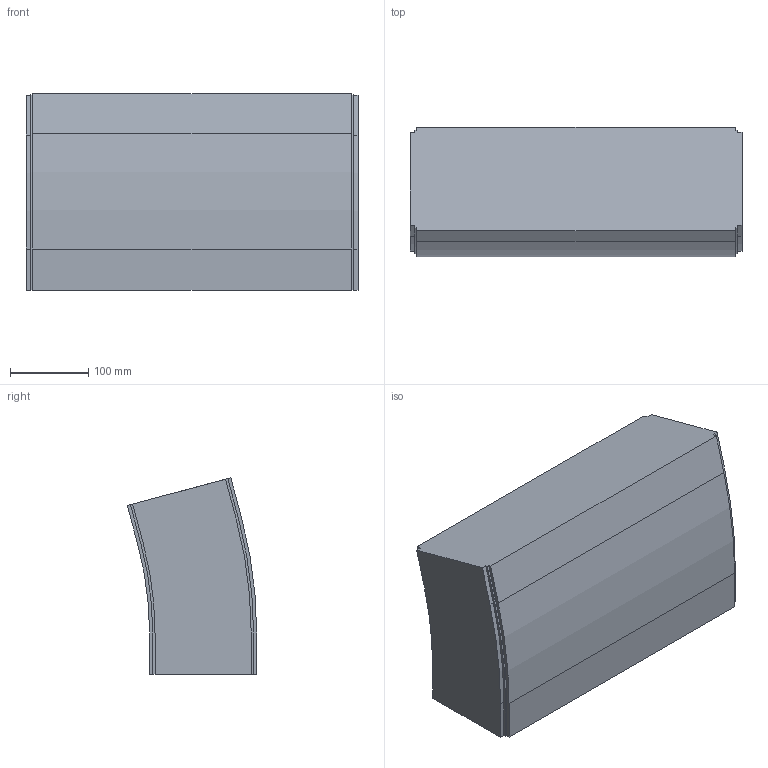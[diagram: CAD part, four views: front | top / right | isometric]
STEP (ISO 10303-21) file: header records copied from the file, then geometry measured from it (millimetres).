
FILE_DESCRIPTION (( 'STEP AP214' ), '1' );
FILE_NAME ('FS-MTC2-150-INOX verticaalbocht.420 15°.STEP', '2017-02-08T12:41:48', ( '' ), ( '' ), 'SwSTEP 2.0', 'SolidWorks 2016', '' );
FILE_SCHEMA (( 'AUTOMOTIVE_DESIGN' ));
Length unit declared in the file: millimetre
Products named in the file (1): FS-MTC2-150-INOX verticaalbocht.420 15°
Bounding box: 423 x 164.8 x 250.28 mm (x, y, z)
Volume: 13572418.1 mm3; surface area: 379041.2 mm2
Topology: 1 solids, 1 shells, 42 faces, 120 edges, 80 vertices
Faces by surface type: plane 32, cylinder 10
Entity records: 1398 total; most frequent: CARTESIAN_POINT 243, ORIENTED_EDGE 240, DIRECTION 226, EDGE_CURVE 120, VECTOR 100, LINE 100, VERTEX_POINT 80, AXIS2_PLACEMENT_3D 63
